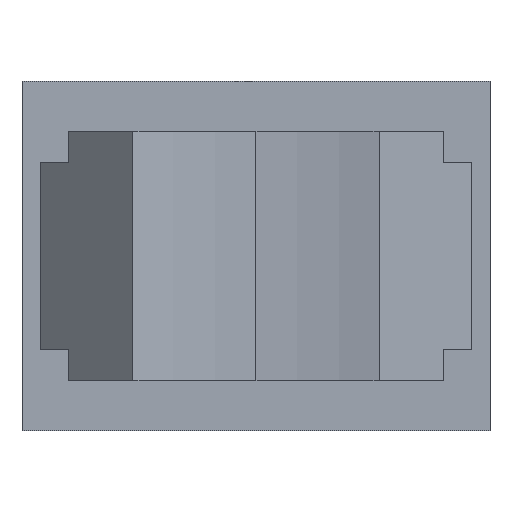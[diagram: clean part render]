
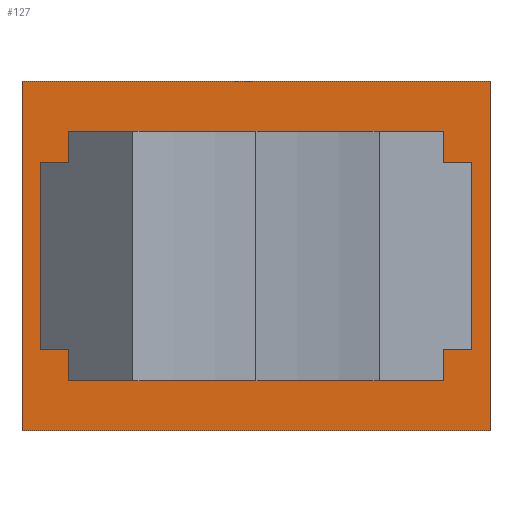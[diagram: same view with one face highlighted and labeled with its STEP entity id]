
A CAD part, left-side view. The second image highlights one B-rep face of the part: STEP entity #127.
In plain terms, the highlighted planar face has unit normal (-1, 0, 0).
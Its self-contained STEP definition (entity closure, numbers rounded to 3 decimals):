
#127=ADVANCED_FACE('',(#279,#280),#281,.T.);
#279=FACE_BOUND('',#461,.T.);
#280=FACE_OUTER_BOUND('',#462,.T.);
#281=PLANE('',#463);
#461=EDGE_LOOP('',(#766,#767,#768,#769));
#462=EDGE_LOOP('',(#770,#771,#772,#773));
#463=AXIS2_PLACEMENT_3D('',#774,#775,#776);
#766=ORIENTED_EDGE('',*,*,#1241,.T.);
#767=ORIENTED_EDGE('',*,*,#1226,.T.);
#768=ORIENTED_EDGE('',*,*,#1242,.T.);
#769=ORIENTED_EDGE('',*,*,#1243,.T.);
#770=ORIENTED_EDGE('',*,*,#1212,.T.);
#771=ORIENTED_EDGE('',*,*,#1171,.F.);
#772=ORIENTED_EDGE('',*,*,#1244,.T.);
#773=ORIENTED_EDGE('',*,*,#1245,.T.);
#774=CARTESIAN_POINT('',(216.0,0.,-13.0));
#775=DIRECTION('',(-1.0,0.0,0.0));
#776=DIRECTION('',(0.0,-1.0,0.0));
#1171=EDGE_CURVE('',#1427,#1422,#1429,.T.);
#1212=EDGE_CURVE('',#1496,#1422,#1497,.T.);
#1226=EDGE_CURVE('',#1517,#1515,#1518,.T.);
#1241=EDGE_CURVE('',#1541,#1517,#1542,.T.);
#1242=EDGE_CURVE('',#1515,#1543,#1544,.T.);
#1243=EDGE_CURVE('',#1543,#1541,#1545,.T.);
#1244=EDGE_CURVE('',#1427,#1546,#1547,.T.);
#1245=EDGE_CURVE('',#1546,#1496,#1548,.T.);
#1422=VERTEX_POINT('',#1782);
#1427=VERTEX_POINT('',#1789);
#1429=LINE('',#1792,#1793);
#1496=VERTEX_POINT('',#1891);
#1497=LINE('',#1892,#1893);
#1515=VERTEX_POINT('',#1919);
#1517=VERTEX_POINT('',#1922);
#1518=LINE('',#1923,#1924);
#1541=VERTEX_POINT('',#1958);
#1542=LINE('',#1959,#1960);
#1543=VERTEX_POINT('',#1961);
#1544=LINE('',#1962,#1963);
#1545=LINE('',#1964,#1965);
#1546=VERTEX_POINT('',#1966);
#1547=LINE('',#1967,#1968);
#1548=LINE('',#1969,#1970);
#1782=CARTESIAN_POINT('',(216.0,75.0,99.0));
#1789=CARTESIAN_POINT('',(216.0,75.0,-13.0));
#1792=CARTESIAN_POINT('',(216.0,75.0,-13.0));
#1793=VECTOR('',#2210,1.0);
#1891=CARTESIAN_POINT('',(216.0,-75.0,99.0));
#1892=CARTESIAN_POINT('',(216.0,75.0,99.0));
#1893=VECTOR('',#2242,1.0);
#1919=CARTESIAN_POINT('',(216.0,69.,13.0));
#1922=CARTESIAN_POINT('',(216.0,-69.0,13.0));
#1923=CARTESIAN_POINT('',(216.0,0.,13.0));
#1924=VECTOR('',#2258,1.0);
#1958=CARTESIAN_POINT('',(216.0,-69.0,73.0));
#1959=CARTESIAN_POINT('',(216.0,-69.,0.0));
#1960=VECTOR('',#2270,1.0);
#1961=CARTESIAN_POINT('',(216.0,69.,73.0));
#1962=CARTESIAN_POINT('',(216.0,69.,0.0));
#1963=VECTOR('',#2271,1.0);
#1964=CARTESIAN_POINT('',(216.0,-34.5,73.0));
#1965=VECTOR('',#2272,1.0);
#1966=CARTESIAN_POINT('',(216.0,-75.0,-13.0));
#1967=CARTESIAN_POINT('',(216.0,75.0,-13.0));
#1968=VECTOR('',#2273,1.0);
#1969=CARTESIAN_POINT('',(216.0,-75.0,-13.0));
#1970=VECTOR('',#2274,1.0);
#2210=DIRECTION('',(0.0,0.0,1.0));
#2242=DIRECTION('',(0.0,1.0,0.0));
#2258=DIRECTION('',(0.0,1.0,0.0));
#2270=DIRECTION('',(0.0,0.0,-1.0));
#2271=DIRECTION('',(0.0,0.0,1.0));
#2272=DIRECTION('',(0.0,-1.0,0.0));
#2273=DIRECTION('',(0.0,-1.0,0.0));
#2274=DIRECTION('',(0.0,0.0,1.0));
